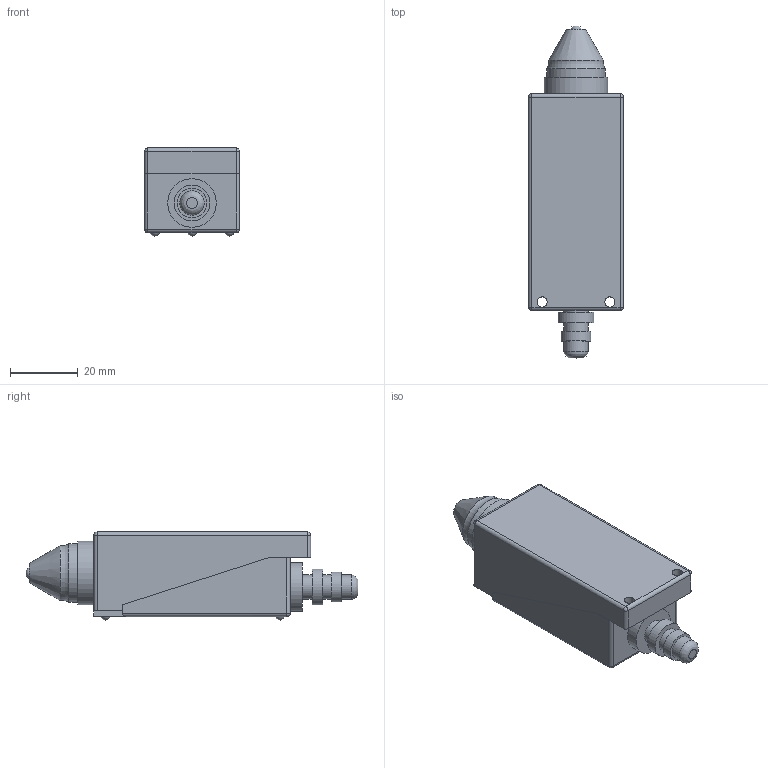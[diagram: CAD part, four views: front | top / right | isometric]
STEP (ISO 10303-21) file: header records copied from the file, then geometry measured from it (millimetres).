
FILE_DESCRIPTION(/* description */ (''),/* implementation_level */ '2;1');
FILE_NAME(/* name */ 'D:\CHINT3\YBLX-ME_8111.stp',/* time_stamp */ '2017-12-11T20:10:32+03:00',/* author */ ('RSagdiev'),/* organization */ (''),/* preprocessor_version */ 'ST-DEVELOPER v16.5',/* originating_system */ 'Autodesk Inventor 2017',/* authorisation */ '');
FILE_SCHEMA (('AUTOMOTIVE_DESIGN { 1 0 10303 214 3 1 1 }'));
Length unit declared in the file: millimetre
Products named in the file (1): YBLX-ME_8111
Bounding box: 28 x 98 x 26 mm (x, y, z)
Volume: 46110.8 mm3; surface area: 13478.8 mm2
Topology: 8 solids, 8 shells, 86 faces, 173 edges, 108 vertices
Faces by surface type: plane 39, cylinder 34, sphere 9, bspline 2, torus 1, cone 1
Full cylindrical faces by diameter (mm): 3 x10, 7.163 x3, 8.723 x1, 10.59 x1, 14.326 x1, 17.165 x1, 18.774 x1
Entity records: 2154 total; most frequent: CARTESIAN_POINT 385, DIRECTION 384, ORIENTED_EDGE 284, AXIS2_PLACEMENT_3D 159, EDGE_CURVE 142, EDGE_LOOP 120, VERTEX_POINT 100, FACE_OUTER_BOUND 86
